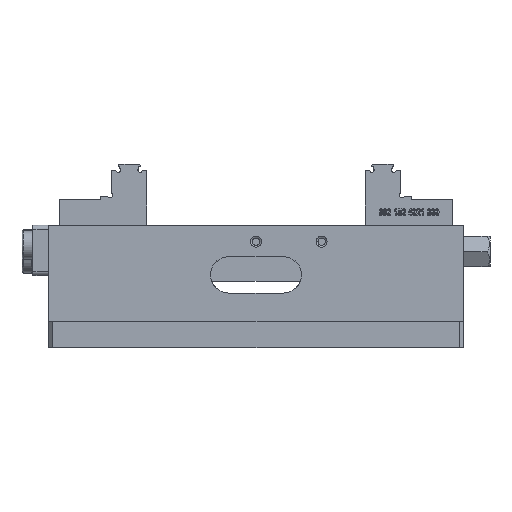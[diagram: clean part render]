
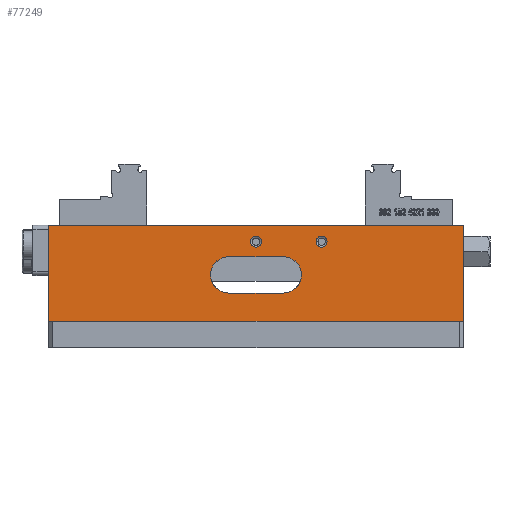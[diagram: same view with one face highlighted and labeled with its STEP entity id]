
A CAD part, top view. The second image highlights one B-rep face of the part: STEP entity #77249.
In plain terms, the highlighted planar face has unit normal (0, 0, 1).
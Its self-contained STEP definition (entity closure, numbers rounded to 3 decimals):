
#801 = LINE ( 'NONE', #52821, #1077 ) ;
#1077 = VECTOR ( 'NONE', #86563, 1000. ) ;
#1215 = EDGE_CURVE ( 'NONE', #64217, #100420, #801, .T. ) ;
#1404 = ORIENTED_EDGE ( 'NONE', *, *, #109890, .T. ) ;
#1410 = EDGE_LOOP ( 'NONE', ( #69619 ) ) ;
#3499 = VERTEX_POINT ( 'NONE', #100264 ) ;
#4264 = EDGE_CURVE ( 'NONE', #11063, #40506, #104754, .T. ) ;
#5651 = LINE ( 'NONE', #74829, #75231 ) ;
#7156 = CARTESIAN_POINT ( 'NONE',  ( 12.5, -22.7, 34. ) ) ;
#8143 = CARTESIAN_POINT ( 'NONE',  ( 2.5, -7.5, 34. ) ) ;
#8262 = VERTEX_POINT ( 'NONE', #108646 ) ;
#11063 = VERTEX_POINT ( 'NONE', #69009 ) ;
#11839 = VECTOR ( 'NONE', #54040, 1000. ) ;
#12357 = ORIENTED_EDGE ( 'NONE', *, *, #71139, .T. ) ;
#14862 = CARTESIAN_POINT ( 'NONE',  ( -94.9, 0., 34. ) ) ;
#15109 = VECTOR ( 'NONE', #97833, 1000. ) ;
#16116 = ORIENTED_EDGE ( 'NONE', *, *, #37721, .F. ) ;
#17527 = EDGE_CURVE ( 'NONE', #40506, #87890, #20886, .T. ) ;
#17671 = CARTESIAN_POINT ( 'NONE',  ( -12.5, -22.7, 34. ) ) ;
#18784 = CARTESIAN_POINT ( 'NONE',  ( 0., -7.5, 34. ) ) ;
#19806 = EDGE_CURVE ( 'NONE', #77319, #77319, #111229, .T. ) ;
#20043 = CARTESIAN_POINT ( 'NONE',  ( 95., -44., 34. ) ) ;
#20886 = LINE ( 'NONE', #28369, #85376 ) ;
#22787 = LINE ( 'NONE', #83975, #60364 ) ;
#23722 = DIRECTION ( 'NONE',  ( -1., 0., 0. ) ) ;
#24476 = CIRCLE ( 'NONE', #106639, 8.3 ) ;
#25934 = ORIENTED_EDGE ( 'NONE', *, *, #57596, .F. ) ;
#27422 = DIRECTION ( 'NONE',  ( -1., 0., 0. ) ) ;
#27959 = DIRECTION ( 'NONE',  ( 1., 0., 0. ) ) ;
#28369 = CARTESIAN_POINT ( 'NONE',  ( -21.95, 72.95, 34. ) ) ;
#34024 = EDGE_CURVE ( 'NONE', #108353, #3499, #22787, .T. ) ;
#37563 = CARTESIAN_POINT ( 'NONE',  ( 95., -44., 34. ) ) ;
#37721 = EDGE_CURVE ( 'NONE', #66347, #8262, #64306, .T. ) ;
#38678 = FACE_BOUND ( 'NONE', #1410, .T. ) ;
#40506 = VERTEX_POINT ( 'NONE', #14862 ) ;
#40871 = DIRECTION ( 'NONE',  ( 0., 0., -1. ) ) ;
#45119 = ORIENTED_EDGE ( 'NONE', *, *, #4264, .T. ) ;
#45210 = LINE ( 'NONE', #20043, #15109 ) ;
#45297 = EDGE_CURVE ( 'NONE', #100420, #108353, #105272, .T. ) ;
#47276 = FACE_BOUND ( 'NONE', #109467, .T. ) ;
#47571 = CARTESIAN_POINT ( 'NONE',  ( 30., -7.5, 34. ) ) ;
#52171 = CARTESIAN_POINT ( 'NONE',  ( -12.5, -14.4, 34. ) ) ;
#52679 = CARTESIAN_POINT ( 'NONE',  ( 95., 0., 34. ) ) ;
#52821 = CARTESIAN_POINT ( 'NONE',  ( 95., -31., 34. ) ) ;
#54040 = DIRECTION ( 'NONE',  ( -1., 0., 0. ) ) ;
#54729 = PLANE ( 'NONE',  #57662 ) ;
#54830 = ORIENTED_EDGE ( 'NONE', *, *, #34024, .T. ) ;
#55283 = DIRECTION ( 'NONE',  ( 0., 0., -1. ) ) ;
#56798 = CIRCLE ( 'NONE', #97008, 2.5 ) ;
#57596 = EDGE_CURVE ( 'NONE', #11063, #66347, #45210, .T. ) ;
#57662 = AXIS2_PLACEMENT_3D ( 'NONE', #37563, #55283, #107367 ) ;
#59760 = CARTESIAN_POINT ( 'NONE',  ( 95., -44., 34. ) ) ;
#60069 = ORIENTED_EDGE ( 'NONE', *, *, #99178, .F. ) ;
#60364 = VECTOR ( 'NONE', #73137, 1000. ) ;
#64217 = VERTEX_POINT ( 'NONE', #89698 ) ;
#64306 = LINE ( 'NONE', #71209, #11839 ) ;
#64435 = FACE_OUTER_BOUND ( 'NONE', #87062, .T. ) ;
#66347 = VERTEX_POINT ( 'NONE', #59760 ) ;
#69009 = CARTESIAN_POINT ( 'NONE',  ( 95., 0., 34. ) ) ;
#69619 = ORIENTED_EDGE ( 'NONE', *, *, #19806, .F. ) ;
#69792 = CARTESIAN_POINT ( 'NONE',  ( -12.5, -31., 34. ) ) ;
#71139 = EDGE_CURVE ( 'NONE', #3499, #64217, #24476, .T. ) ;
#71209 = CARTESIAN_POINT ( 'NONE',  ( 95., -44., 34. ) ) ;
#71371 = ORIENTED_EDGE ( 'NONE', *, *, #45297, .T. ) ;
#71396 = DIRECTION ( 'NONE',  ( 0., 0., 1. ) ) ;
#73137 = DIRECTION ( 'NONE',  ( 1., 0., 0. ) ) ;
#73289 = DIRECTION ( 'NONE',  ( 1., 0., 0. ) ) ;
#74763 = CARTESIAN_POINT ( 'NONE',  ( -95., -0.1, 34. ) ) ;
#74829 = CARTESIAN_POINT ( 'NONE',  ( -95., -44., 34. ) ) ;
#75231 = VECTOR ( 'NONE', #92562, 1000. ) ;
#77249 = ADVANCED_FACE ( 'NONE', ( #38678, #98212, #47276, #64435 ), #54729, .F. ) ;
#77270 = EDGE_LOOP ( 'NONE', ( #60069 ) ) ;
#77319 = VERTEX_POINT ( 'NONE', #8143 ) ;
#78977 = DIRECTION ( 'NONE',  ( -1., 0., 0. ) ) ;
#79084 = VERTEX_POINT ( 'NONE', #79636 ) ;
#79636 = CARTESIAN_POINT ( 'NONE',  ( 32.5, -7.5, 34. ) ) ;
#81707 = ORIENTED_EDGE ( 'NONE', *, *, #1215, .T. ) ;
#83003 = DIRECTION ( 'NONE',  ( 0., 0., 1. ) ) ;
#83975 = CARTESIAN_POINT ( 'NONE',  ( 95., -14.4, 34. ) ) ;
#85350 = VECTOR ( 'NONE', #78977, 1000. ) ;
#85376 = VECTOR ( 'NONE', #108409, 1000. ) ;
#86563 = DIRECTION ( 'NONE',  ( -1., 0., 0. ) ) ;
#87062 = EDGE_LOOP ( 'NONE', ( #45119, #90728, #1404, #16116, #25934 ) ) ;
#87890 = VERTEX_POINT ( 'NONE', #74763 ) ;
#89698 = CARTESIAN_POINT ( 'NONE',  ( 12.5, -31., 34. ) ) ;
#90728 = ORIENTED_EDGE ( 'NONE', *, *, #17527, .T. ) ;
#92562 = DIRECTION ( 'NONE',  ( 0., -1., 0. ) ) ;
#94293 = AXIS2_PLACEMENT_3D ( 'NONE', #17671, #110954, #27422 ) ;
#97008 = AXIS2_PLACEMENT_3D ( 'NONE', #47571, #83003, #73289 ) ;
#97833 = DIRECTION ( 'NONE',  ( 0., -1., 0. ) ) ;
#98212 = FACE_BOUND ( 'NONE', #77270, .T. ) ;
#99178 = EDGE_CURVE ( 'NONE', #79084, #79084, #56798, .T. ) ;
#100264 = CARTESIAN_POINT ( 'NONE',  ( 12.5, -14.4, 34. ) ) ;
#100420 = VERTEX_POINT ( 'NONE', #69792 ) ;
#103966 = AXIS2_PLACEMENT_3D ( 'NONE', #18784, #71396, #27959 ) ;
#104754 = LINE ( 'NONE', #52679, #85350 ) ;
#105272 = CIRCLE ( 'NONE', #94293, 8.3 ) ;
#106639 = AXIS2_PLACEMENT_3D ( 'NONE', #7156, #40871, #23722 ) ;
#107367 = DIRECTION ( 'NONE',  ( -1., 0., 0. ) ) ;
#108353 = VERTEX_POINT ( 'NONE', #52171 ) ;
#108409 = DIRECTION ( 'NONE',  ( -0.707, -0.707, 0. ) ) ;
#108646 = CARTESIAN_POINT ( 'NONE',  ( -95., -44., 34. ) ) ;
#109467 = EDGE_LOOP ( 'NONE', ( #81707, #71371, #54830, #12357 ) ) ;
#109890 = EDGE_CURVE ( 'NONE', #87890, #8262, #5651, .T. ) ;
#110954 = DIRECTION ( 'NONE',  ( 0., 0., -1. ) ) ;
#111229 = CIRCLE ( 'NONE', #103966, 2.5 ) ;
